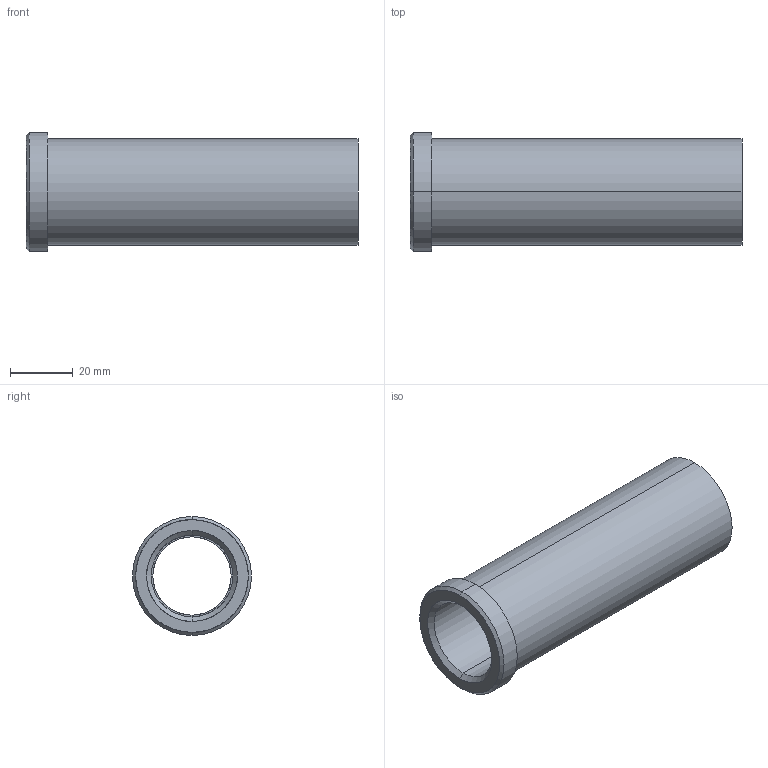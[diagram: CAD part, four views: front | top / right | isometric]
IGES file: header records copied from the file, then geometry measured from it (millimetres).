
Start section: START RECORD GO HERE.
Global section: file name: 353-25X106.igs; native system: DASSAULT SYSTEMES CATIA V5 R20 - www.3ds.com; preprocessor: CATIA Version 5 Release 20 ; author: Utente; organization: NB04-ASUS; date: 20210512.203333; units: millimetre
Bounding box: 106 x 38 x 38 mm (x, y, z)
Surface area: 20992.2 mm2 (no closed solid volume)
Topology: 0 solids, 0 shells, 18 faces, 116 edges, 116 vertices
Faces by surface type: revolution 14, plane 4
